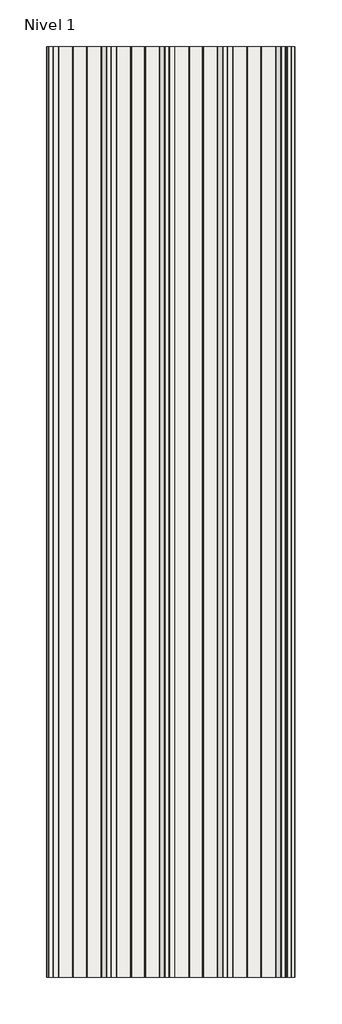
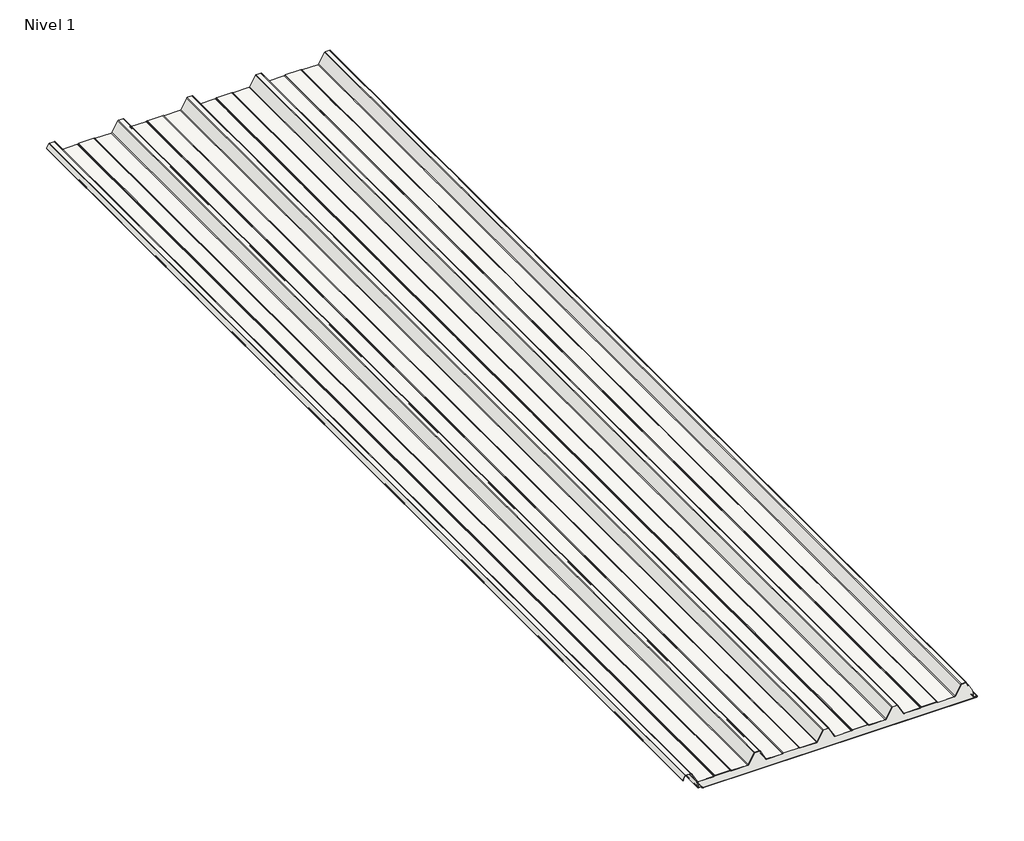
# One storey: 1 slab.
"""IFC4 building model written with IfcOpenShell, lengths in millimetres."""

from ifc_helpers import new_model, si_unit, origin, place, context, project, spatial, transform, mapped, element, save
from components import hi_quadcore_2_0_xt_30_liso_grecada_d3419650

model = new_model("IFC4")

# Units and contexts
model_context = context("Model", 3, world=origin())
ifc_project = project(units=[si_unit("LENGTHUNIT", "METRE", prefix="MILLI")], contexts=[model_context])

# Site, building, storey
site = spatial("IfcSite", under=ifc_project)
building = spatial("IfcBuilding", under=site)
storey = spatial("IfcBuildingStorey", under=building, Name="Nivel 1", Elevation=0.0)

# Slab
placement = place(None, origin())
hi_quadcore_2_0_xt_30_liso_grecada_shape = hi_quadcore_2_0_xt_30_liso_grecada_d3419650(model_context)
element("IfcSlab", 1, ObjectType="Panel_HI_QuadCore 2.0 XT-XT DUAL_liso-grecada : HI-Quadcore 2.0 XT 30 liso-grecada", at=placement, inside=storey, context=model_context, shape_type="MappedRepresentation", body=[
    mapped(hi_quadcore_2_0_xt_30_liso_grecada_shape, transform((179.0307103, 435.507424, 0.0), x_axis=(1.0, 0.0, 0.0), y_axis=(0.0, 1.0, 0.0), z_axis=(0.0, 0.0, 1.0))),
])

save(model, "model.ifc")
